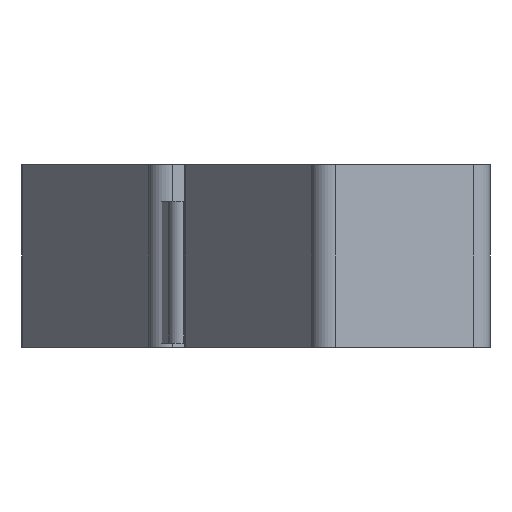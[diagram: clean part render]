
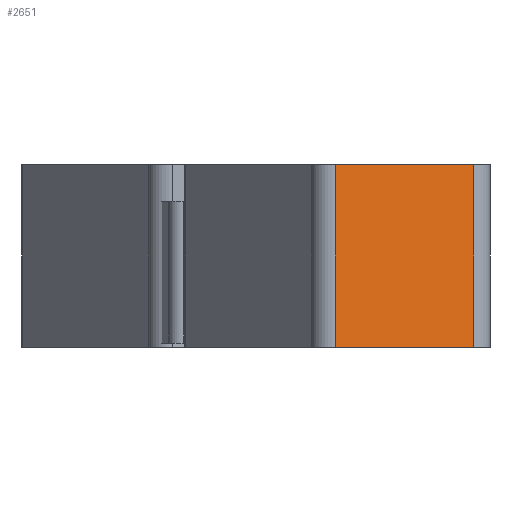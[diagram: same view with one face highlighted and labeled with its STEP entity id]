
A CAD part, front view. The second image highlights one B-rep face of the part: STEP entity #2651.
In plain terms, the highlighted planar face has unit normal (0.208, -0.978, 0).
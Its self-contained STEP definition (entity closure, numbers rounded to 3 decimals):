
#2129 = PLANE('',#2130);
#2130 = AXIS2_PLACEMENT_3D('',#2131,#2132,#2133);
#2131 = CARTESIAN_POINT('',(2.944,-37.134,30.1));
#2132 = DIRECTION('',(0.,0.,1.));
#2133 = DIRECTION('',(0.978,0.208,0.));
#2157 = CYLINDRICAL_SURFACE('',#2158,1.);
#2158 = AXIS2_PLACEMENT_3D('',#2159,#2160,#2161);
#2159 = CARTESIAN_POINT('',(3.714,-35.948,21.1));
#2160 = DIRECTION('',(0.,0.,1.));
#2161 = DIRECTION('',(-0.978,-0.208,0.));
#2185 = PLANE('',#2186);
#2186 = AXIS2_PLACEMENT_3D('',#2187,#2188,#2189);
#2187 = CARTESIAN_POINT('',(2.944,-37.134,21.1));
#2188 = DIRECTION('',(0.,0.,1.));
#2189 = DIRECTION('',(0.978,0.208,0.));
#2228 = VERTEX_POINT('',#2229);
#2229 = CARTESIAN_POINT('',(3.922,-36.926,30.1));
#2251 = EDGE_CURVE('',#2228,#2252,#2254,.T.);
#2252 = VERTEX_POINT('',#2253);
#2253 = CARTESIAN_POINT('',(10.769,-35.471,30.1));
#2254 = SURFACE_CURVE('',#2255,(#2259,#2266),.PCURVE_S1.);
#2255 = LINE('',#2256,#2257);
#2256 = CARTESIAN_POINT('',(2.944,-37.134,30.1));
#2257 = VECTOR('',#2258,1.);
#2258 = DIRECTION('',(0.978,0.208,0.));
#2259 = PCURVE('',#2129,#2260);
#2260 = DEFINITIONAL_REPRESENTATION('',(#2261),#2265);
#2261 = LINE('',#2262,#2263);
#2262 = CARTESIAN_POINT('',(0.,0.));
#2263 = VECTOR('',#2264,1.);
#2264 = DIRECTION('',(1.,0.));
#2265 = ( GEOMETRIC_REPRESENTATION_CONTEXT(2) 
PARAMETRIC_REPRESENTATION_CONTEXT() REPRESENTATION_CONTEXT('2D SPACE',''
  ) );
#2266 = PCURVE('',#2267,#2272);
#2267 = PLANE('',#2268);
#2268 = AXIS2_PLACEMENT_3D('',#2269,#2270,#2271);
#2269 = CARTESIAN_POINT('',(2.944,-37.134,21.1));
#2270 = DIRECTION('',(-0.208,0.978,0.));
#2271 = DIRECTION('',(0.,0.,1.));
#2272 = DEFINITIONAL_REPRESENTATION('',(#2273),#2277);
#2273 = LINE('',#2274,#2275);
#2274 = CARTESIAN_POINT('',(9.,0.));
#2275 = VECTOR('',#2276,1.);
#2276 = DIRECTION('',(0.,1.));
#2277 = ( GEOMETRIC_REPRESENTATION_CONTEXT(2) 
PARAMETRIC_REPRESENTATION_CONTEXT() REPRESENTATION_CONTEXT('2D SPACE',''
  ) );
#2300 = CYLINDRICAL_SURFACE('',#2301,1.);
#2301 = AXIS2_PLACEMENT_3D('',#2302,#2303,#2304);
#2302 = CARTESIAN_POINT('',(10.561,-34.492,21.1));
#2303 = DIRECTION('',(0.,0.,1.));
#2304 = DIRECTION('',(0.978,0.208,0.));
#2427 = VERTEX_POINT('',#2428);
#2428 = CARTESIAN_POINT('',(3.922,-36.926,21.1));
#2450 = EDGE_CURVE('',#2427,#2228,#2451,.T.);
#2451 = SURFACE_CURVE('',#2452,(#2456,#2463),.PCURVE_S1.);
#2452 = LINE('',#2453,#2454);
#2453 = CARTESIAN_POINT('',(3.922,-36.926,21.1));
#2454 = VECTOR('',#2455,1.);
#2455 = DIRECTION('',(0.,0.,1.));
#2456 = PCURVE('',#2157,#2457);
#2457 = DEFINITIONAL_REPRESENTATION('',(#2458),#2462);
#2458 = LINE('',#2459,#2460);
#2459 = CARTESIAN_POINT('',(1.571,0.));
#2460 = VECTOR('',#2461,1.);
#2461 = DIRECTION('',(0.,1.));
#2462 = ( GEOMETRIC_REPRESENTATION_CONTEXT(2) 
PARAMETRIC_REPRESENTATION_CONTEXT() REPRESENTATION_CONTEXT('2D SPACE',''
  ) );
#2463 = PCURVE('',#2267,#2464);
#2464 = DEFINITIONAL_REPRESENTATION('',(#2465),#2469);
#2465 = LINE('',#2466,#2467);
#2466 = CARTESIAN_POINT('',(0.,1.));
#2467 = VECTOR('',#2468,1.);
#2468 = DIRECTION('',(1.,0.));
#2469 = ( GEOMETRIC_REPRESENTATION_CONTEXT(2) 
PARAMETRIC_REPRESENTATION_CONTEXT() REPRESENTATION_CONTEXT('2D SPACE',''
  ) );
#2532 = EDGE_CURVE('',#2427,#2533,#2535,.T.);
#2533 = VERTEX_POINT('',#2534);
#2534 = CARTESIAN_POINT('',(10.769,-35.471,21.1));
#2535 = SURFACE_CURVE('',#2536,(#2540,#2547),.PCURVE_S1.);
#2536 = LINE('',#2537,#2538);
#2537 = CARTESIAN_POINT('',(2.944,-37.134,21.1));
#2538 = VECTOR('',#2539,1.);
#2539 = DIRECTION('',(0.978,0.208,0.));
#2540 = PCURVE('',#2185,#2541);
#2541 = DEFINITIONAL_REPRESENTATION('',(#2542),#2546);
#2542 = LINE('',#2543,#2544);
#2543 = CARTESIAN_POINT('',(0.,0.));
#2544 = VECTOR('',#2545,1.);
#2545 = DIRECTION('',(1.,0.));
#2546 = ( GEOMETRIC_REPRESENTATION_CONTEXT(2) 
PARAMETRIC_REPRESENTATION_CONTEXT() REPRESENTATION_CONTEXT('2D SPACE',''
  ) );
#2547 = PCURVE('',#2267,#2548);
#2548 = DEFINITIONAL_REPRESENTATION('',(#2549),#2553);
#2549 = LINE('',#2550,#2551);
#2550 = CARTESIAN_POINT('',(0.,0.));
#2551 = VECTOR('',#2552,1.);
#2552 = DIRECTION('',(0.,1.));
#2553 = ( GEOMETRIC_REPRESENTATION_CONTEXT(2) 
PARAMETRIC_REPRESENTATION_CONTEXT() REPRESENTATION_CONTEXT('2D SPACE',''
  ) );
#2651 = ADVANCED_FACE('',(#2652),#2267,.F.);
#2652 = FACE_BOUND('',#2653,.F.);
#2653 = EDGE_LOOP('',(#2654,#2655,#2656,#2657));
#2654 = ORIENTED_EDGE('',*,*,#2532,.F.);
#2655 = ORIENTED_EDGE('',*,*,#2450,.T.);
#2656 = ORIENTED_EDGE('',*,*,#2251,.T.);
#2657 = ORIENTED_EDGE('',*,*,#2658,.F.);
#2658 = EDGE_CURVE('',#2533,#2252,#2659,.T.);
#2659 = SURFACE_CURVE('',#2660,(#2664,#2671),.PCURVE_S1.);
#2660 = LINE('',#2661,#2662);
#2661 = CARTESIAN_POINT('',(10.769,-35.471,21.1));
#2662 = VECTOR('',#2663,1.);
#2663 = DIRECTION('',(0.,0.,1.));
#2664 = PCURVE('',#2267,#2665);
#2665 = DEFINITIONAL_REPRESENTATION('',(#2666),#2670);
#2666 = LINE('',#2667,#2668);
#2667 = CARTESIAN_POINT('',(0.,8.));
#2668 = VECTOR('',#2669,1.);
#2669 = DIRECTION('',(1.,0.));
#2670 = ( GEOMETRIC_REPRESENTATION_CONTEXT(2) 
PARAMETRIC_REPRESENTATION_CONTEXT() REPRESENTATION_CONTEXT('2D SPACE',''
  ) );
#2671 = PCURVE('',#2300,#2672);
#2672 = DEFINITIONAL_REPRESENTATION('',(#2673),#2677);
#2673 = LINE('',#2674,#2675);
#2674 = CARTESIAN_POINT('',(-1.571,0.));
#2675 = VECTOR('',#2676,1.);
#2676 = DIRECTION('',(-0.,1.));
#2677 = ( GEOMETRIC_REPRESENTATION_CONTEXT(2) 
PARAMETRIC_REPRESENTATION_CONTEXT() REPRESENTATION_CONTEXT('2D SPACE',''
  ) );
